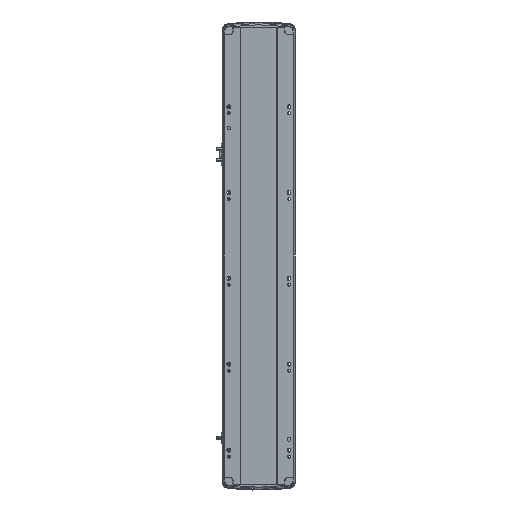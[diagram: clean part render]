
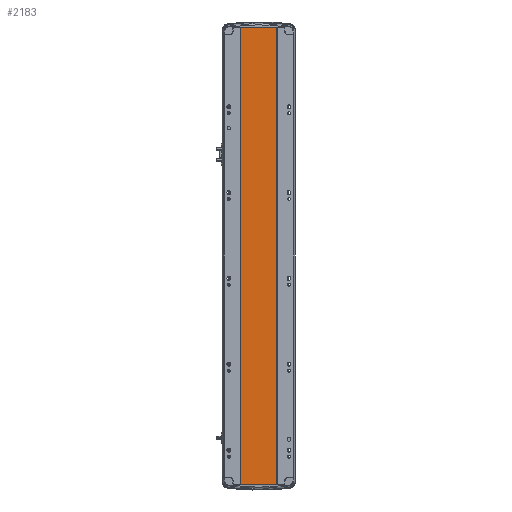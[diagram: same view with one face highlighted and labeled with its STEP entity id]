
A CAD part, front view. The second image highlights one B-rep face of the part: STEP entity #2183.
In plain terms, the highlighted planar face has unit normal (0, -1, 0).
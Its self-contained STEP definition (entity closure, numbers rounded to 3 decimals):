
#1922 = DIRECTION ( 'NONE',  ( 0., 0., -1. ) ) ;
#2183 = ADVANCED_FACE ( 'NONE', ( #14453 ), #8988, .F. ) ;
#3709 = CARTESIAN_POINT ( 'NONE',  ( 0., 0.999, 0. ) ) ;
#3876 = ORIENTED_EDGE ( 'NONE', *, *, #14483, .T. ) ;
#4175 = VERTEX_POINT ( 'NONE', #10412 ) ;
#4506 = ORIENTED_EDGE ( 'NONE', *, *, #29002, .T. ) ;
#4548 = CARTESIAN_POINT ( 'NONE',  ( 41.793, 0.998, 1064.5 ) ) ;
#5816 = VERTEX_POINT ( 'NONE', #21939 ) ;
#6355 = DIRECTION ( 'NONE',  ( 1., 0., 0. ) ) ;
#6591 = VECTOR ( 'NONE', #13509, 1000. ) ;
#8157 = VERTEX_POINT ( 'NONE', #26073 ) ;
#8988 = PLANE ( 'NONE',  #9546 ) ;
#9132 = DIRECTION ( 'NONE',  ( 0., 1., 0. ) ) ;
#9546 = AXIS2_PLACEMENT_3D ( 'NONE', #34139, #9132, #24784 ) ;
#10412 = CARTESIAN_POINT ( 'NONE',  ( 41.793, 0.998, 0. ) ) ;
#12563 = VECTOR ( 'NONE', #13999, 1000. ) ;
#13509 = DIRECTION ( 'NONE',  ( 1., 0., 0. ) ) ;
#13999 = DIRECTION ( 'NONE',  ( 0., 0., -1. ) ) ;
#14453 = FACE_OUTER_BOUND ( 'NONE', #30554, .T. ) ;
#14483 = EDGE_CURVE ( 'NONE', #39077, #8157, #33575, .T. ) ;
#14907 = LINE ( 'NONE', #3709, #29652 ) ;
#19457 = ORIENTED_EDGE ( 'NONE', *, *, #37303, .F. ) ;
#19844 = CARTESIAN_POINT ( 'NONE',  ( 0., 0.999, 1064.5 ) ) ;
#20098 = EDGE_CURVE ( 'NONE', #5816, #4175, #30264, .T. ) ;
#21939 = CARTESIAN_POINT ( 'NONE',  ( 41.793, 0.998, 1064.5 ) ) ;
#24784 = DIRECTION ( 'NONE',  ( -1., 0., 0. ) ) ;
#26073 = CARTESIAN_POINT ( 'NONE',  ( -41.791, 1., 0. ) ) ;
#26103 = CARTESIAN_POINT ( 'NONE',  ( -41.791, 1., 1064.5 ) ) ;
#29002 = EDGE_CURVE ( 'NONE', #8157, #4175, #14907, .T. ) ;
#29652 = VECTOR ( 'NONE', #6355, 1000. ) ;
#30264 = LINE ( 'NONE', #4548, #12563 ) ;
#30554 = EDGE_LOOP ( 'NONE', ( #4506, #38930, #19457, #3876 ) ) ;
#33575 = LINE ( 'NONE', #26103, #35025 ) ;
#34139 = CARTESIAN_POINT ( 'NONE',  ( 0., 0.999, 1064.5 ) ) ;
#35025 = VECTOR ( 'NONE', #1922, 1000. ) ;
#36039 = LINE ( 'NONE', #19844, #6591 ) ;
#37303 = EDGE_CURVE ( 'NONE', #39077, #5816, #36039, .T. ) ;
#38850 = CARTESIAN_POINT ( 'NONE',  ( -41.791, 1., 1064.5 ) ) ;
#38930 = ORIENTED_EDGE ( 'NONE', *, *, #20098, .F. ) ;
#39077 = VERTEX_POINT ( 'NONE', #38850 ) ;
